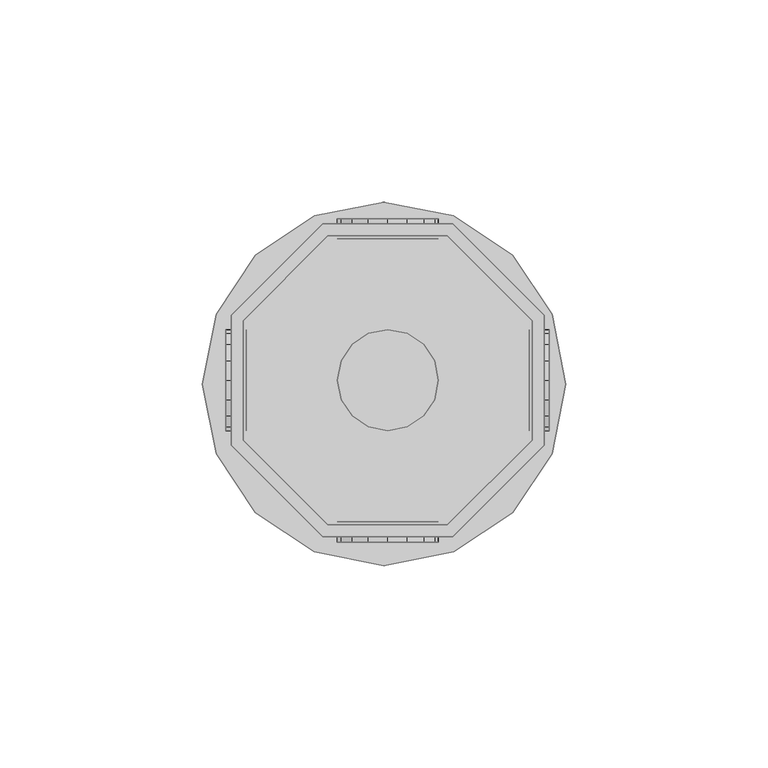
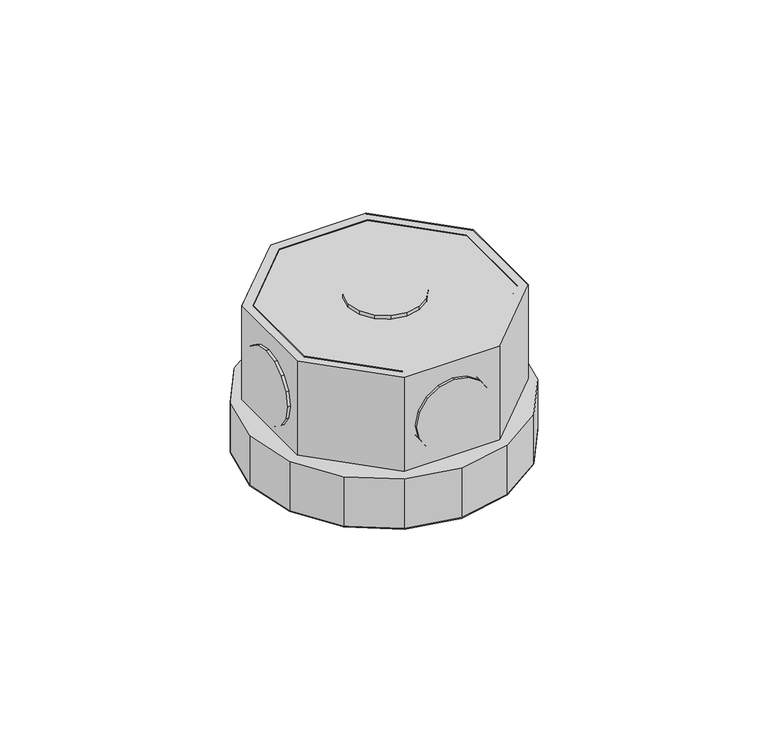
"""IFC4 building model written with IfcOpenShell, lengths in millimetres: light fixture geometry,  212654 :  212654."""

from ifc_helpers import new_model, si_unit, origin, place, context, project, spatial, triangles, source, transform, mapped, element, save


def light_fixture_465db3b3(model_context):
    return source(origin(), model_context, "Body", "Tessellation", [
        triangles([(29953.399585, 11732.1001648, 2924.5999741), (29953.399585, 11761.6995209, 2975.400071), (29953.399585, 11761.6995209, 2924.5999741), (29953.399585, 11732.1001648, 2975.400071), (29878.8994812, 11730.900238, 2924.5999741), (29878.8994812, 11762.9994415, 2975.400071), (29878.8994812, 11762.9994415, 2924.5999741), (29878.8994812, 11730.900238, 2975.400071), (29932.4008667, 11782.7005646, 2975.400071), (29932.4008667, 11782.7005646, 2924.5999741), (29901.6004211, 11708.2004608, 2924.5999741), (29901.6004211, 11708.2004608, 2975.400071), (29902.8003479, 11782.7005646, 2975.400071), (29902.8003479, 11782.7005646, 2924.5999741), (29933.7007874, 11708.2004608, 2924.5999741), (29933.7007874, 11708.2004608, 2975.400071), (29881.8992981, 11761.6995209, 2975.400071), (29881.8992981, 11761.6995209, 2924.5999741), (29956.3994019, 11730.900238, 2924.5999741), (29956.3994019, 11730.900238, 2975.400071), (29881.8992981, 11732.1001648, 2924.5999741), (29881.8992981, 11732.1001648, 2975.400071), (29956.3994019, 11762.9994415, 2975.400071), (29956.3994019, 11762.9994415, 2924.5999741), (29902.8003479, 11711.2002777, 2924.5999741), (29902.8003479, 11711.2002777, 2975.400071), (29933.7007874, 11785.7003815, 2975.400071), (29933.7007874, 11785.7003815, 2924.5999741), (29901.6004211, 11785.7003815, 2975.400071), (29932.4008667, 11711.2002777, 2975.400071), (29932.4008667, 11711.2002777, 2924.5999741), (29901.6004211, 11785.7003815, 2924.5999741), (29902.8003479, 11782.7005646, 2972.3999634), (29881.8992981, 11761.6995209, 2972.3999634), (29881.8992981, 11732.1001648, 2972.3999634), (29902.8003479, 11711.2002777, 2972.3999634), (29932.4008667, 11711.2002777, 2972.3999634), (29953.399585, 11732.1001648, 2972.3999634), (29953.399585, 11761.6995209, 2972.3999634), (29932.4008667, 11782.7005646, 2972.3999634), (29933.7007874, 11785.7003815, 2942.4000504), (29956.3994019, 11762.9994415, 2942.4000504), (29956.3994019, 11730.900238, 2942.4000504), (29933.7007874, 11708.2004608, 2942.4000504), (29901.6004211, 11708.2004608, 2942.4000504), (29878.8994812, 11730.900238, 2942.4000504), (29878.8994812, 11762.9994415, 2942.4000504), (29901.6004211, 11785.7003815, 2942.4000504), (29875.199707, 11763.2994232, 2942.4000504), (29899.5005493, 11787.6002655, 2942.4000504), (29884.899115, 11777.8996948, 2942.4000504), (29916.6994995, 11791.000058, 2942.4000504), (29934.000769, 11787.6002655, 2942.4000504), (29948.5998779, 11777.8996948, 2942.4000504), (29958.2992859, 11763.2994232, 2942.4000504), (29961.6990784, 11746.0004791, 2942.4000504), (29958.2992859, 11728.8003662, 2942.4000504), (29934.000769, 11704.4995239, 2942.4000504), (29948.5998779, 11714.2000946, 2942.4000504), (29871.6999207, 11746.0004791, 2942.4000504), (29875.199707, 11728.8003662, 2942.4000504), (29884.899115, 11714.2000946, 2942.4000504), (29899.5005493, 11704.4995239, 2942.4000504), (29916.6994995, 11700.9997375, 2942.4000504), (29899.5005493, 11787.6002655, 2924.5999741), (29875.199707, 11763.2994232, 2924.5999741), (29884.899115, 11777.8996948, 2924.5999741), (29916.6994995, 11791.000058, 2924.5999741), (29934.000769, 11787.6002655, 2924.5999741), (29948.5998779, 11777.8996948, 2924.5999741), (29958.2992859, 11763.2994232, 2924.5999741), (29961.6990784, 11746.0004791, 2924.5999741), (29958.2992859, 11728.8003662, 2924.5999741), (29934.000769, 11704.4995239, 2924.5999741), (29948.5998779, 11714.2000946, 2924.5999741), (29871.6999207, 11746.0004791, 2924.5999741), (29875.199707, 11728.8003662, 2924.5999741), (29884.899115, 11714.2000946, 2924.5999741), (29899.5005493, 11704.4995239, 2924.5999741), (29916.6994995, 11700.9997375, 2924.5999741), (29957.5993286, 11758.4997162, 2952.6000092), (29957.5993286, 11751.7001312, 2945.9001274), (29957.5993286, 11755.799881, 2948.5999626), (29957.5993286, 11759.3996613, 2957.4000069), (29957.5993286, 11746.9004242, 2944.8998978), (29957.5993286, 11758.4997162, 2962.2000046), (29957.5993286, 11742.0995544, 2945.9001274), (29957.5993286, 11755.799881, 2966.2000511), (29957.5993286, 11738.0997986, 2948.5999626), (29957.5993286, 11751.7001312, 2968.8998863), (29957.5993286, 11735.3999634, 2952.6000092), (29957.5993286, 11746.9004242, 2969.900116), (29957.5993286, 11734.4000244, 2957.4000069), (29957.5993286, 11742.0995544, 2968.8998863), (29957.5993286, 11735.3999634, 2962.2000046), (29957.5993286, 11738.0997986, 2966.2000511), (29952.5996338, 11751.7001312, 2945.9001274), (29952.5996338, 11758.4997162, 2952.6000092), (29952.5996338, 11755.799881, 2948.5999626), (29952.5996338, 11746.9004242, 2944.8998978), (29952.5996338, 11759.3996613, 2957.4000069), (29952.5996338, 11742.0995544, 2945.9001274), (29952.5996338, 11758.4997162, 2962.2000046), (29952.5996338, 11738.0997986, 2948.5999626), (29952.5996338, 11755.799881, 2966.2000511), (29952.5996338, 11751.7001312, 2968.8998863), (29952.5996338, 11735.3999634, 2952.6000092), (29952.5996338, 11746.9004242, 2969.900116), (29952.5996338, 11734.4000244, 2957.4000069), (29952.5996338, 11742.0995544, 2968.8998863), (29952.5996338, 11735.3999634, 2962.2000046), (29952.5996338, 11738.0997986, 2966.2000511), (29882.5992554, 11758.4997162, 2952.6000092), (29882.5992554, 11751.7001312, 2945.9001274), (29882.5992554, 11755.799881, 2948.5999626), (29882.5992554, 11759.3996613, 2957.4000069), (29882.5992554, 11746.9004242, 2944.8998978), (29882.5992554, 11758.4997162, 2962.2000046), (29882.5992554, 11742.0995544, 2945.9001274), (29882.5992554, 11755.799881, 2966.2000511), (29882.5992554, 11738.0997986, 2948.5999626), (29882.5992554, 11751.7001312, 2968.8998863), (29882.5992554, 11735.3999634, 2952.6000092), (29882.5992554, 11746.9004242, 2969.900116), (29882.5992554, 11734.4000244, 2957.4000069), (29882.5992554, 11742.0995544, 2968.8998863), (29882.5992554, 11735.3999634, 2962.2000046), (29882.5992554, 11738.0997986, 2966.2000511), (29877.5995605, 11751.7001312, 2945.9001274), (29877.5995605, 11758.4997162, 2952.6000092), (29877.5995605, 11755.799881, 2948.5999626), (29877.5995605, 11746.9004242, 2944.8998978), (29877.5995605, 11759.3996613, 2957.4000069), (29877.5995605, 11742.0995544, 2945.9001274), (29877.5995605, 11758.4997162, 2962.2000046), (29877.5995605, 11738.0997986, 2948.5999626), (29877.5995605, 11755.799881, 2966.2000511), (29877.5995605, 11751.7001312, 2968.8998863), (29877.5995605, 11735.3999634, 2952.6000092), (29877.5995605, 11746.9004242, 2969.900116), (29877.5995605, 11734.4000244, 2957.4000069), (29877.5995605, 11742.0995544, 2968.8998863), (29877.5995605, 11735.3999634, 2962.2000046), (29877.5995605, 11738.0997986, 2966.2000511), (29912.7997375, 11781.8994507, 2945.9001274), (29906.1001465, 11781.8994507, 2952.6000092), (29908.7999817, 11781.8994507, 2948.5999626), (29917.5994446, 11781.8994507, 2944.8998978), (29905.1002075, 11781.8994507, 2957.4000069), (29922.3991516, 11781.8994507, 2945.9001274), (29906.1001465, 11781.8994507, 2962.2000046), (29926.4989014, 11781.8994507, 2948.5999626), (29908.7999817, 11781.8994507, 2966.2000511), (29912.7997375, 11781.8994507, 2968.8998863), (29929.201062, 11781.8994507, 2952.6000092), (29917.5994446, 11781.8994507, 2969.900116), (29930.1010071, 11781.8994507, 2957.4000069), (29922.3991516, 11781.8994507, 2968.8998863), (29929.201062, 11781.8994507, 2962.2000046), (29926.4989014, 11781.8994507, 2966.2000511), (29906.1001465, 11786.9003082, 2952.6000092), (29912.7997375, 11786.9003082, 2945.9001274), (29908.7999817, 11786.9003082, 2948.5999626), (29905.1002075, 11786.9003082, 2957.4000069), (29917.5994446, 11786.9003082, 2944.8998978), (29906.1001465, 11786.9003082, 2962.2000046), (29922.3991516, 11786.9003082, 2945.9001274), (29908.7999817, 11786.9003082, 2966.2000511), (29926.4989014, 11786.9003082, 2948.5999626), (29912.7997375, 11786.9003082, 2968.8998863), (29929.201062, 11786.9003082, 2952.6000092), (29917.5994446, 11786.9003082, 2969.900116), (29930.1010071, 11786.9003082, 2957.4000069), (29922.3991516, 11786.9003082, 2968.8998863), (29929.201062, 11786.9003082, 2962.2000046), (29926.4989014, 11786.9003082, 2966.2000511), (29912.7997375, 11706.9005402, 2945.9001274), (29906.1001465, 11706.9005402, 2952.6000092), (29908.7999817, 11706.9005402, 2948.5999626), (29917.5994446, 11706.9005402, 2944.8998978), (29905.1002075, 11706.9005402, 2957.4000069), (29922.3991516, 11706.9005402, 2945.9001274), (29906.1001465, 11706.9005402, 2962.2000046), (29926.4989014, 11706.9005402, 2948.5999626), (29908.7999817, 11706.9005402, 2966.2000511), (29912.7997375, 11706.9005402, 2968.8998863), (29929.201062, 11706.9005402, 2952.6000092), (29917.5994446, 11706.9005402, 2969.900116), (29930.1010071, 11706.9005402, 2957.4000069), (29922.3991516, 11706.9005402, 2968.8998863), (29929.201062, 11706.9005402, 2962.2000046), (29926.4989014, 11706.9005402, 2966.2000511), (29906.1001465, 11711.900235, 2952.6000092), (29912.7997375, 11711.900235, 2945.9001274), (29908.7999817, 11711.900235, 2948.5999626), (29905.1002075, 11711.900235, 2957.4000069), (29917.5994446, 11711.900235, 2944.8998978), (29906.1001465, 11711.900235, 2962.2000046), (29922.3991516, 11711.900235, 2945.9001274), (29908.7999817, 11711.900235, 2966.2000511), (29926.4989014, 11711.900235, 2948.5999626), (29912.7997375, 11711.900235, 2968.8998863), (29929.201062, 11711.900235, 2952.6000092), (29917.5994446, 11711.900235, 2969.900116), (29930.1010071, 11711.900235, 2957.4000069), (29922.3991516, 11711.900235, 2968.8998863), (29929.201062, 11711.900235, 2962.2000046), (29926.4989014, 11711.900235, 2966.2000511), (29906.1001465, 11751.7001312, 2976.9999733), (29912.7997375, 11758.4997162, 2976.9999733), (29908.7999817, 11755.799881, 2976.9999733), (29917.5994446, 11759.3996613, 2976.9999733), (29905.1002075, 11746.9004242, 2976.9999733), (29922.3991516, 11758.4997162, 2976.9999733), (29906.1001465, 11742.0995544, 2976.9999733), (29926.4989014, 11755.799881, 2976.9999733), (29908.7999817, 11738.0997986, 2976.9999733), (29929.201062, 11751.7001312, 2976.9999733), (29912.7997375, 11735.3999634, 2976.9999733), (29930.1010071, 11746.9004242, 2976.9999733), (29917.5994446, 11734.4000244, 2976.9999733), (29929.201062, 11742.0995544, 2976.9999733), (29922.3991516, 11735.3999634, 2976.9999733), (29926.4989014, 11738.0997986, 2976.9999733), (29912.7997375, 11758.4997162, 2971.9999878), (29906.1001465, 11751.7001312, 2971.9999878), (29908.7999817, 11755.799881, 2971.9999878), (29917.5994446, 11759.3996613, 2971.9999878), (29905.1002075, 11746.9004242, 2971.9999878), (29922.3991516, 11758.4997162, 2971.9999878), (29906.1001465, 11742.0995544, 2971.9999878), (29926.4989014, 11755.799881, 2971.9999878), (29908.7999817, 11738.0997986, 2971.9999878), (29929.201062, 11751.7001312, 2971.9999878), (29912.7997375, 11735.3999634, 2971.9999878), (29930.1010071, 11746.9004242, 2971.9999878), (29917.5994446, 11734.4000244, 2971.9999878), (29929.201062, 11742.0995544, 2971.9999878), (29922.3991516, 11735.3999634, 2971.9999878), (29926.4989014, 11738.0997986, 2971.9999878)], [[1, 2, 3], [2, 1, 4], [5, 6, 7], [6, 5, 8], [3, 9, 10], [9, 3, 2], [11, 8, 5], [8, 11, 12], [10, 13, 14], [13, 10, 9], [15, 12, 11], [12, 15, 16], [14, 17, 18], [17, 14, 13], [19, 16, 15], [16, 19, 20], [17, 21, 18], [21, 17, 22], [23, 19, 24], [19, 23, 20], [22, 25, 21], [25, 22, 26], [27, 24, 28], [24, 27, 23], [6, 13, 29], [29, 13, 27], [27, 13, 9], [27, 9, 23], [23, 9, 2], [23, 2, 4], [23, 4, 20], [20, 4, 30], [8, 17, 6], [6, 17, 13], [17, 8, 22], [12, 22, 8], [22, 12, 26], [30, 26, 12], [16, 30, 12], [20, 30, 16], [30, 1, 31], [1, 30, 4], [6, 32, 7], [32, 6, 29], [32, 14, 7], [28, 14, 32], [14, 28, 10], [24, 10, 28], [10, 24, 3], [1, 3, 24], [19, 1, 24], [31, 1, 19], [7, 18, 5], [14, 18, 7], [5, 18, 21], [5, 21, 11], [11, 21, 25], [11, 25, 31], [11, 31, 15], [15, 31, 19], [26, 31, 25], [31, 26, 30], [29, 28, 32], [28, 29, 27], [17, 33, 34], [33, 17, 13], [35, 17, 34], [17, 35, 22], [36, 22, 35], [22, 36, 26], [37, 26, 36], [26, 37, 30], [38, 30, 37], [30, 38, 4], [2, 38, 39], [38, 2, 4], [17, 9, 13], [9, 17, 22], [9, 22, 2], [2, 22, 26], [2, 26, 4], [4, 26, 30], [13, 40, 33], [40, 13, 9], [40, 34, 33], [35, 34, 40], [35, 40, 39], [35, 39, 36], [36, 39, 38], [36, 38, 37], [9, 39, 40], [39, 9, 2], [24, 41, 28], [41, 24, 42], [19, 42, 24], [42, 19, 43], [44, 19, 15], [19, 44, 43], [45, 15, 11], [15, 45, 44], [46, 11, 5], [11, 46, 45], [47, 5, 7], [5, 47, 46], [32, 47, 7], [47, 32, 48], [28, 48, 32], [48, 28, 41], [49, 50, 51], [48, 50, 49], [50, 48, 52], [41, 52, 48], [52, 41, 53], [53, 41, 54], [42, 54, 41], [54, 42, 55], [55, 42, 43], [55, 43, 56], [56, 43, 57], [57, 43, 44], [57, 44, 58], [57, 58, 59], [47, 49, 60], [49, 47, 48], [47, 60, 46], [61, 46, 60], [46, 61, 62], [46, 62, 45], [45, 62, 63], [44, 45, 63], [44, 63, 64], [44, 64, 58], [65, 66, 67], [66, 65, 32], [68, 32, 65], [32, 68, 28], [28, 68, 69], [70, 28, 69], [28, 70, 24], [71, 24, 70], [19, 24, 71], [19, 71, 72], [73, 19, 72], [19, 73, 15], [74, 15, 73], [74, 73, 75], [76, 66, 7], [32, 7, 66], [5, 76, 7], [76, 5, 77], [77, 5, 78], [11, 78, 5], [78, 11, 79], [79, 11, 15], [79, 15, 80], [80, 15, 74], [57, 75, 73], [75, 57, 59], [56, 73, 72], [73, 56, 57], [55, 72, 71], [72, 55, 56], [54, 71, 70], [71, 54, 55], [53, 70, 69], [70, 53, 54], [52, 69, 68], [69, 52, 53], [50, 68, 65], [68, 50, 52], [51, 65, 67], [65, 51, 50], [66, 51, 67], [51, 66, 49], [76, 49, 66], [49, 76, 60], [77, 60, 76], [60, 77, 61], [78, 61, 77], [61, 78, 62], [79, 62, 78], [62, 79, 63], [80, 63, 79], [63, 80, 64], [75, 58, 74], [58, 75, 59], [74, 64, 80], [64, 74, 58], [81, 82, 83], [82, 81, 84], [85, 82, 84], [85, 84, 86], [87, 85, 86], [87, 86, 88], [87, 88, 89], [89, 88, 90], [89, 90, 91], [91, 90, 92], [91, 92, 93], [93, 92, 94], [93, 94, 95], [95, 94, 96], [97, 98, 99], [98, 97, 100], [101, 98, 100], [101, 100, 102], [103, 101, 102], [103, 102, 104], [103, 104, 105], [105, 104, 106], [106, 104, 107], [106, 107, 108], [108, 107, 109], [108, 109, 110], [110, 109, 111], [110, 111, 112], [87, 104, 102], [104, 87, 89], [85, 102, 100], [102, 85, 87], [82, 100, 97], [100, 82, 85], [83, 97, 99], [97, 83, 82], [98, 83, 99], [83, 98, 81], [101, 81, 98], [81, 101, 84], [103, 84, 101], [84, 103, 86], [105, 86, 103], [86, 105, 88], [106, 88, 105], [88, 106, 90], [108, 90, 106], [90, 108, 92], [110, 92, 108], [92, 110, 94], [112, 94, 110], [94, 112, 96], [95, 112, 111], [112, 95, 96], [93, 111, 109], [111, 93, 95], [89, 107, 104], [107, 89, 91], [91, 109, 107], [109, 91, 93], [113, 114, 115], [114, 113, 116], [117, 114, 116], [117, 116, 118], [119, 117, 118], [119, 118, 120], [119, 120, 121], [121, 120, 122], [121, 122, 123], [123, 122, 124], [123, 124, 125], [125, 124, 126], [125, 126, 127], [127, 126, 128], [129, 130, 131], [130, 129, 132], [133, 130, 132], [133, 132, 134], [135, 133, 134], [135, 134, 136], [135, 136, 137], [137, 136, 138], [138, 136, 139], [138, 139, 140], [140, 139, 141], [140, 141, 142], [142, 141, 143], [142, 143, 144], [119, 136, 134], [136, 119, 121], [117, 134, 132], [134, 117, 119], [114, 132, 129], [132, 114, 117], [115, 129, 131], [129, 115, 114], [130, 115, 131], [115, 130, 113], [133, 113, 130], [113, 133, 116], [135, 116, 133], [116, 135, 118], [137, 118, 135], [118, 137, 120], [138, 120, 137], [120, 138, 122], [140, 122, 138], [122, 140, 124], [142, 124, 140], [124, 142, 126], [144, 126, 142], [126, 144, 128], [127, 144, 143], [144, 127, 128], [125, 143, 141], [143, 125, 127], [121, 139, 136], [139, 121, 123], [123, 141, 139], [141, 123, 125], [145, 146, 147], [146, 145, 148], [149, 146, 148], [149, 148, 150], [151, 149, 150], [151, 150, 152], [151, 152, 153], [153, 152, 154], [154, 152, 155], [154, 155, 156], [156, 155, 157], [156, 157, 158], [158, 157, 159], [158, 159, 160], [161, 162, 163], [162, 161, 164], [165, 162, 164], [165, 164, 166], [167, 165, 166], [167, 166, 168], [169, 167, 168], [169, 168, 170], [169, 170, 171], [171, 170, 172], [171, 172, 173], [173, 172, 174], [173, 174, 175], [175, 174, 176], [158, 176, 174], [176, 158, 160], [156, 174, 172], [174, 156, 158], [154, 172, 170], [172, 154, 156], [153, 170, 168], [170, 153, 154], [151, 168, 166], [168, 151, 153], [149, 166, 164], [166, 149, 151], [146, 164, 161], [164, 146, 149], [147, 161, 163], [161, 147, 146], [162, 147, 163], [147, 162, 145], [165, 145, 162], [145, 165, 148], [167, 148, 165], [148, 167, 150], [169, 150, 167], [150, 169, 152], [171, 152, 169], [152, 171, 155], [173, 155, 171], [155, 173, 157], [176, 159, 175], [159, 176, 160], [175, 157, 173], [157, 175, 159], [177, 178, 179], [178, 177, 180], [181, 178, 180], [181, 180, 182], [183, 181, 182], [183, 182, 184], [183, 184, 185], [185, 184, 186], [186, 184, 187], [186, 187, 188], [188, 187, 189], [188, 189, 190], [190, 189, 191], [190, 191, 192], [193, 194, 195], [194, 193, 196], [197, 194, 196], [197, 196, 198], [199, 197, 198], [199, 198, 200], [201, 199, 200], [201, 200, 202], [201, 202, 203], [203, 202, 204], [203, 204, 205], [205, 204, 206], [205, 206, 207], [207, 206, 208], [190, 208, 206], [208, 190, 192], [188, 206, 204], [206, 188, 190], [186, 204, 202], [204, 186, 188], [185, 202, 200], [202, 185, 186], [183, 200, 198], [200, 183, 185], [181, 198, 196], [198, 181, 183], [178, 196, 193], [196, 178, 181], [179, 193, 195], [193, 179, 178], [194, 179, 195], [179, 194, 177], [197, 177, 194], [177, 197, 180], [199, 180, 197], [180, 199, 182], [201, 182, 199], [182, 201, 184], [203, 184, 201], [184, 203, 187], [205, 187, 203], [187, 205, 189], [208, 191, 207], [191, 208, 192], [207, 189, 205], [189, 207, 191], [209, 210, 211], [212, 210, 209], [212, 209, 213], [214, 212, 213], [214, 213, 215], [216, 214, 215], [216, 215, 217], [216, 217, 218], [218, 217, 219], [218, 219, 220], [220, 219, 221], [220, 221, 222], [222, 221, 223], [222, 223, 224], [225, 226, 227], [226, 225, 228], [229, 226, 228], [229, 228, 230], [231, 229, 230], [231, 230, 232], [231, 232, 233], [233, 232, 234], [233, 234, 235], [235, 234, 236], [235, 236, 237], [237, 236, 238], [237, 238, 239], [239, 238, 240], [222, 240, 238], [240, 222, 224], [220, 238, 236], [238, 220, 222], [218, 236, 234], [236, 218, 220], [216, 234, 232], [234, 216, 218], [214, 232, 230], [232, 214, 216], [212, 230, 228], [230, 212, 214], [210, 228, 225], [228, 210, 212], [211, 225, 227], [225, 211, 210], [226, 211, 227], [211, 226, 209], [229, 209, 226], [209, 229, 213], [231, 213, 229], [213, 231, 215], [233, 215, 231], [215, 233, 217], [235, 217, 233], [217, 235, 219], [237, 219, 235], [219, 237, 221], [240, 223, 239], [223, 240, 224], [239, 221, 237], [221, 239, 223]], closed=False),
    ])


if __name__ == "__main__":
    model = new_model("IFC4")
    model_context = context("Model", 3, world=origin())
    ifc_project = project(units=[si_unit("LENGTHUNIT", "METRE", prefix="MILLI")], contexts=[model_context])
    site = spatial("IfcSite", under=ifc_project)
    building = spatial("IfcBuilding", under=site)
    placement = place(None, origin())
    light_fixture_shape = light_fixture_465db3b3(model_context)
    element("IfcLightFixture", 1, ObjectType=" 212654 :  212654", at=placement, inside=building, context=model_context, shape_type="MappedRepresentation", body=[
        mapped(light_fixture_shape, transform((0.0, 0.0, 0.0), x_axis=(1.0, 0.0, 0.0), y_axis=(0.0, 1.0, 0.0), z_axis=(0.0, 0.0, 1.0))),
    ])
    save(model, "model.ifc")
